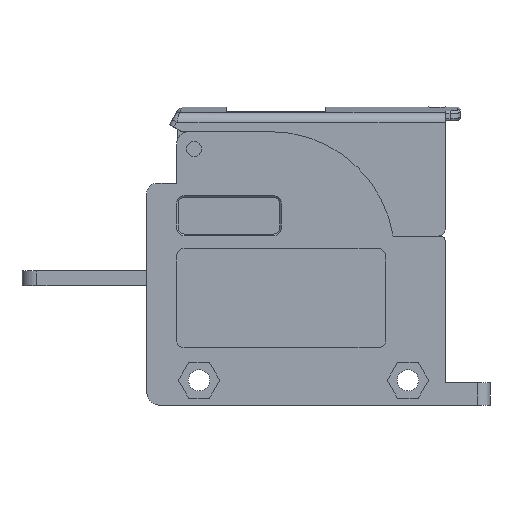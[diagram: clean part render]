
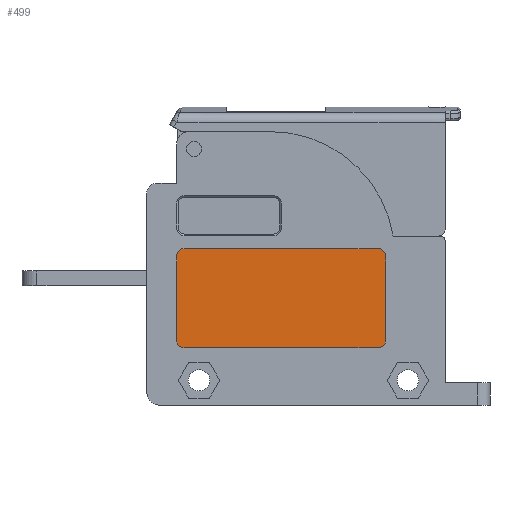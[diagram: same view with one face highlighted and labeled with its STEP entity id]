
A CAD part, left-side view. The second image highlights one B-rep face of the part: STEP entity #499.
In plain terms, the highlighted planar face has unit normal (-1, 0, 0).
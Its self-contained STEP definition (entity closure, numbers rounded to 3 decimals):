
#346=CIRCLE('',#4937,1.5);
#347=CIRCLE('',#4938,1.5);
#348=CIRCLE('',#4939,1.5);
#349=CIRCLE('',#4940,1.5);
#499=ADVANCED_FACE('',(#892),#719,.T.);
#719=PLANE('',#4941);
#892=FACE_OUTER_BOUND('',#1144,.T.);
#1144=EDGE_LOOP('',(#2754,#2755,#2756,#2757,#2758,#2759,#2760,#2761));
#1536=LINE('',#6975,#2018);
#1537=LINE('',#6980,#2019);
#1538=LINE('',#6984,#2020);
#1539=LINE('',#6988,#2021);
#2018=VECTOR('',#5657,1.);
#2019=VECTOR('',#5660,1.);
#2020=VECTOR('',#5663,1.);
#2021=VECTOR('',#5666,1.);
#2754=ORIENTED_EDGE('',*,*,#4382,.T.);
#2755=ORIENTED_EDGE('',*,*,#4383,.T.);
#2756=ORIENTED_EDGE('',*,*,#4384,.T.);
#2757=ORIENTED_EDGE('',*,*,#4385,.T.);
#2758=ORIENTED_EDGE('',*,*,#4386,.F.);
#2759=ORIENTED_EDGE('',*,*,#4387,.T.);
#2760=ORIENTED_EDGE('',*,*,#4388,.F.);
#2761=ORIENTED_EDGE('',*,*,#4389,.T.);
#3860=VERTEX_POINT('',#6976);
#3861=VERTEX_POINT('',#6977);
#3862=VERTEX_POINT('',#6979);
#3863=VERTEX_POINT('',#6981);
#3864=VERTEX_POINT('',#6983);
#3865=VERTEX_POINT('',#6985);
#3866=VERTEX_POINT('',#6987);
#3867=VERTEX_POINT('',#6989);
#4382=EDGE_CURVE('',#3860,#3861,#1536,.T.);
#4383=EDGE_CURVE('',#3861,#3862,#346,.T.);
#4384=EDGE_CURVE('',#3862,#3863,#1537,.T.);
#4385=EDGE_CURVE('',#3863,#3864,#347,.T.);
#4386=EDGE_CURVE('',#3865,#3864,#1538,.T.);
#4387=EDGE_CURVE('',#3865,#3866,#348,.T.);
#4388=EDGE_CURVE('',#3867,#3866,#1539,.T.);
#4389=EDGE_CURVE('',#3867,#3860,#349,.T.);
#4937=AXIS2_PLACEMENT_3D('',#6978,#5658,#5659);
#4938=AXIS2_PLACEMENT_3D('',#6982,#5661,#5662);
#4939=AXIS2_PLACEMENT_3D('',#6986,#5664,#5665);
#4940=AXIS2_PLACEMENT_3D('',#6990,#5667,#5668);
#4941=AXIS2_PLACEMENT_3D('',#6991,#5669,#5670);
#5657=DIRECTION('',(0.,1.,0.));
#5658=DIRECTION('',(-1.,0.,0.));
#5659=DIRECTION('',(0.,0.,1.));
#5660=DIRECTION('',(0.,0.,-1.));
#5661=DIRECTION('',(-1.,0.,0.));
#5662=DIRECTION('',(0.,0.,1.));
#5663=DIRECTION('',(0.,1.,0.));
#5664=DIRECTION('',(-1.,0.,0.));
#5665=DIRECTION('',(0.,0.,1.));
#5666=DIRECTION('',(0.,0.,-1.));
#5667=DIRECTION('',(-1.,0.,0.));
#5668=DIRECTION('',(0.,0.,1.));
#5669=DIRECTION('',(-1.,0.,0.));
#5670=DIRECTION('',(0.,0.,1.));
#6975=CARTESIAN_POINT('',(-92.05,19.7,17.05));
#6976=CARTESIAN_POINT('',(-92.05,7.,17.05));
#6977=CARTESIAN_POINT('',(-92.05,46.,17.05));
#6978=CARTESIAN_POINT('',(-92.05,46.,15.55));
#6979=CARTESIAN_POINT('',(-92.05,47.5,15.55));
#6980=CARTESIAN_POINT('',(-92.05,47.5,-3.));
#6981=CARTESIAN_POINT('',(-92.05,47.5,-1.45));
#6982=CARTESIAN_POINT('',(-92.05,46.,-1.45));
#6983=CARTESIAN_POINT('',(-92.05,46.,-2.95));
#6984=CARTESIAN_POINT('',(-92.05,38.,-2.95));
#6985=CARTESIAN_POINT('',(-92.05,7.,-2.95));
#6986=CARTESIAN_POINT('',(-92.05,7.,-1.45));
#6987=CARTESIAN_POINT('',(-92.05,5.5,-1.45));
#6988=CARTESIAN_POINT('',(-92.05,5.5,0.));
#6989=CARTESIAN_POINT('',(-92.05,5.5,15.55));
#6990=CARTESIAN_POINT('',(-92.05,7.,15.55));
#6991=CARTESIAN_POINT('',(-92.05,19.7,-3.));
